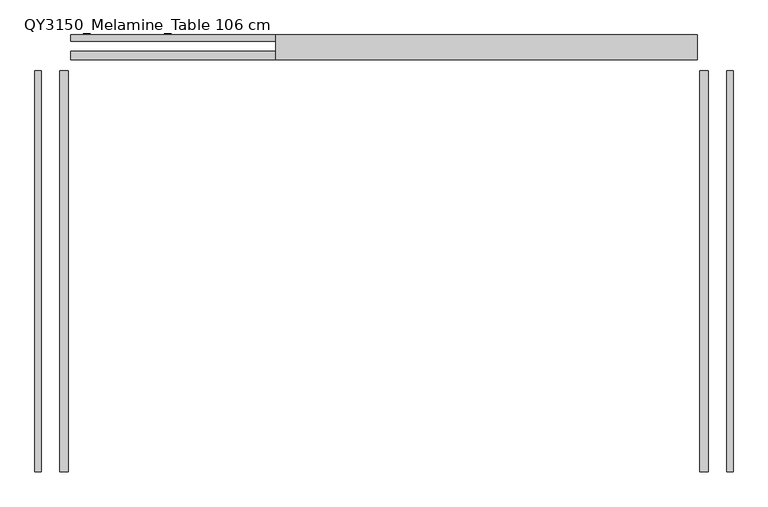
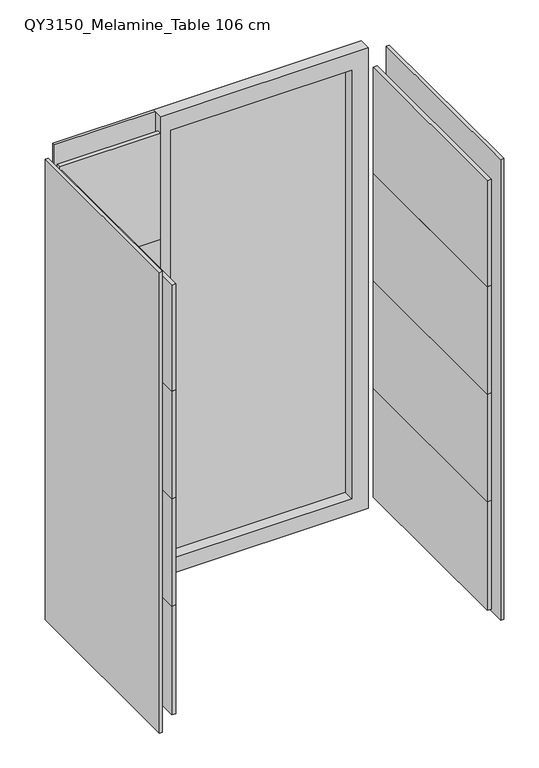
"""IFC4 building model written with IfcOpenShell, lengths in millimetres: furniture geometry, Qyos_150 : QY3150_Melamine_Table 106 cm."""

from ifc_helpers import new_model, si_unit, frame, origin, place, context, project, spatial, polyline, outline, extrude, source, transform, mapped, element, save


def qy3150_melamine_table_106_cm_c69a3f73(model_context):
    return source(origin(), model_context, "Body", "SweptSolid", [
        extrude(outline(polyline([(619.5, 520.0), (-195.7844354, 520.0), (-195.7844354, 525.0), (619.5, 525.0), (619.5, 520.0)])), frame((0.0, 0.0, 82.0), z_axis=(0.0, 0.0, 1.0), x_axis=(1.0, 0.0, 0.0)), (0.0, 0.0, 1.0), 2040.1),
        extrude(outline(polyline([(10.0, -239.9562864), (10.0, 695.0), (2202.1, 695.0), (2202.1, -239.9562864), (10.0, -239.9562864)]), holes=[polyline([(82.0, 619.5), (82.0, -194.9250972), (2122.1, -194.9250972), (2122.1, 619.5), (82.0, 619.5)])]), frame((0.0, 470.0, 0.0), z_axis=(0.0, 1.0, 0.0), x_axis=(0.0, 0.0, 1.0)), (0.0, 0.0, 1.0), 55.0),
        extrude(outline(polyline([(720.0, -444.9498873), (701.0, -444.9498873), (701.0, 445.0024364), (720.0, 445.0024364), (720.0, -444.9498873)])), frame((0.0, 0.0, 1617.9823403), z_axis=(0.0, 0.0, 1.0), x_axis=(1.0, 0.0, 0.0)), (0.0, 0.0, 1.0), 504.1176597),
        extrude(outline(polyline([(-720.0, -445.0), (-720.0, 445.0), (-701.0, 445.0), (-701.0, -445.0), (-720.0, -445.0)])), frame((0.0, 0.0, 1617.9823403), z_axis=(0.0, 0.0, 1.0), x_axis=(1.0, 0.0, 0.0)), (0.0, 0.0, 1.0), 504.1176597),
        extrude(outline(polyline([(-695.0, 470.0), (-695.0, 489.0), (-239.9562864, 489.0), (-239.9562864, 470.0), (-695.0, 470.0)])), frame((0.0, 0.0, 1617.9823403), z_axis=(0.0, 0.0, 1.0), x_axis=(1.0, 0.0, 0.0)), (0.0, 0.0, 1.0), 504.1176597),
        extrude(outline(polyline([(720.0, -445.0), (701.0, -445.0), (701.0, 445.0), (720.0, 445.0), (720.0, -445.0)])), frame((0.0, 0.0, 1106.0116287), z_axis=(0.0, 0.0, 1.0), x_axis=(1.0, 0.0, 0.0)), (0.0, 0.0, 1.0), 511.9707116),
        extrude(outline(polyline([(-720.0, -445.0), (-720.0, 445.0), (-701.0, 445.0), (-701.0, -445.0), (-720.0, -445.0)])), frame((0.0, 0.0, 1106.0116287), z_axis=(0.0, 0.0, 1.0), x_axis=(1.0, 0.0, 0.0)), (0.0, 0.0, 1.0), 511.9707116),
        extrude(outline(polyline([(-695.0, 470.0), (-695.0, 489.0), (-239.9562864, 489.0), (-239.9562864, 470.0), (-695.0, 470.0)])), frame((0.0, 0.0, 1106.0116287), z_axis=(0.0, 0.0, 1.0), x_axis=(1.0, 0.0, 0.0)), (0.0, 0.0, 1.0), 511.9707116),
        extrude(outline(polyline([(720.0, -445.0), (701.0, -445.0), (701.0, 445.0), (720.0, 445.0), (720.0, -445.0)])), frame((0.0, 0.0, 593.9823403), z_axis=(0.0, 0.0, 1.0), x_axis=(1.0, 0.0, 0.0)), (0.0, 0.0, 1.0), 512.0292884),
        extrude(outline(polyline([(-720.0, -445.0), (-720.0, 445.0), (-701.0, 445.0), (-701.0, -445.0), (-720.0, -445.0)])), frame((0.0, 0.0, 593.9823403), z_axis=(0.0, 0.0, 1.0), x_axis=(1.0, 0.0, 0.0)), (0.0, 0.0, 1.0), 512.0292884),
        extrude(outline(polyline([(-695.0, 470.0), (-695.0, 489.0), (-239.9562864, 489.0), (-239.9562864, 470.0), (-695.0, 470.0)])), frame((0.0, 0.0, 593.9823403), z_axis=(0.0, 0.0, 1.0), x_axis=(1.0, 0.0, 0.0)), (0.0, 0.0, 1.0), 512.0292884),
        extrude(outline(polyline([(720.0, -445.0), (701.0, -445.0), (701.0, 445.0), (720.0, 445.0), (720.0, -445.0)])), frame((0.0, 0.0, 77.0), z_axis=(0.0, 0.0, 1.0), x_axis=(1.0, 0.0, 0.0)), (0.0, 0.0, 1.0), 516.9823403),
        extrude(outline(polyline([(-720.0, -445.0), (-720.0, 445.0), (-701.0, 445.0), (-701.0, -445.0), (-720.0, -445.0)])), frame((0.0, 0.0, 77.0), z_axis=(0.0, 0.0, 1.0), x_axis=(1.0, 0.0, 0.0)), (0.0, 0.0, 1.0), 516.9823403),
        extrude(outline(polyline([(-695.0, 470.0), (-695.0, 489.0), (-239.9562864, 489.0), (-239.9562864, 470.0), (-695.0, 470.0)])), frame((0.0, 0.0, 77.0), z_axis=(0.0, 0.0, 1.0), x_axis=(1.0, 0.0, 0.0)), (0.0, 0.0, 1.0), 516.9823403),
        extrude(outline(polyline([(-775.0, -445.0), (-775.0, 445.0), (-761.0, 445.0), (-761.0, -445.0), (-775.0, -445.0)])), frame((0.0, 0.0, 10.0), z_axis=(0.0, 0.0, 1.0), x_axis=(1.0, 0.0, 0.0)), (0.0, 0.0, 1.0), 2192.1),
        extrude(outline(polyline([(775.0, -445.0), (761.0, -445.0), (761.0, 445.0), (775.0, 445.0), (775.0, -445.0)])), frame((0.0, 0.0, 10.0), z_axis=(0.0, 0.0, 1.0), x_axis=(1.0, 0.0, 0.0)), (0.0, 0.0, 1.0), 2192.1),
        extrude(outline(polyline([(-239.9562864, 525.0), (-239.9562864, 511.0), (-695.0, 511.0), (-695.0, 525.0), (-239.9562864, 525.0)])), frame((0.0, 0.0, 10.0), z_axis=(0.0, 0.0, 1.0), x_axis=(1.0, 0.0, 0.0)), (0.0, 0.0, 1.0), 2192.1),
    ])


if __name__ == "__main__":
    model = new_model("IFC4")
    model_context = context("Model", 3, world=origin())
    ifc_project = project(units=[si_unit("LENGTHUNIT", "METRE", prefix="MILLI")], contexts=[model_context])
    site = spatial("IfcSite", under=ifc_project)
    building = spatial("IfcBuilding", under=site)
    placement = place(None, origin())
    qy3150_melamine_table_106_cm_shape = qy3150_melamine_table_106_cm_c69a3f73(model_context)
    element("IfcFurniture", 1, ObjectType="Qyos_150 : QY3150_Melamine_Table 106 cm", at=placement, inside=building, context=model_context, shape_type="MappedRepresentation", body=[
        mapped(qy3150_melamine_table_106_cm_shape, transform((0.0, 0.0, 0.0), x_axis=(1.0, 0.0, 0.0), y_axis=(0.0, 1.0, 0.0), z_axis=(0.0, 0.0, 1.0))),
    ])
    save(model, "model.ifc")
